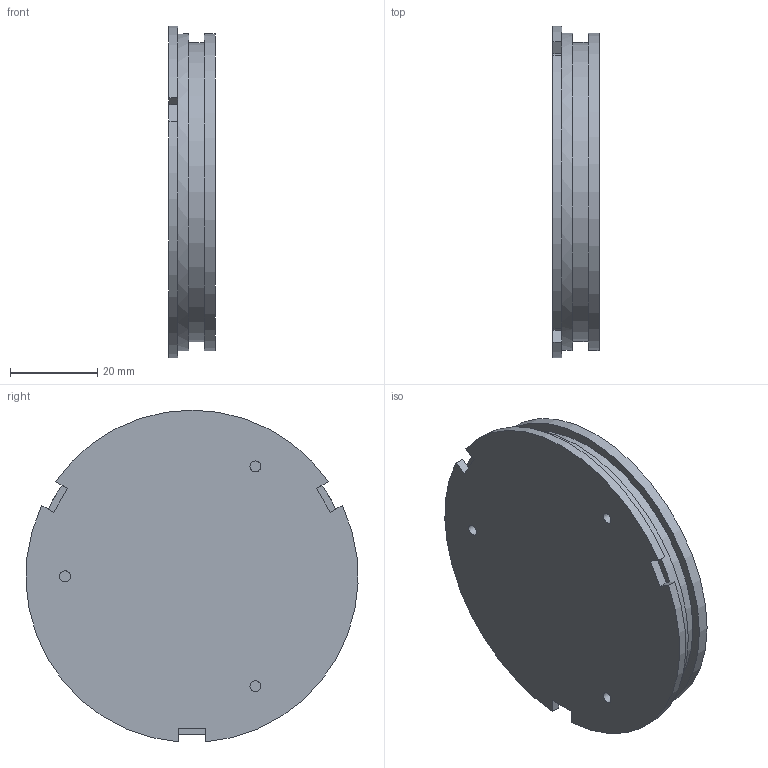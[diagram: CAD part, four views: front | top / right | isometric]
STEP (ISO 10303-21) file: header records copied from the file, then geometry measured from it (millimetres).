
FILE_DESCRIPTION(('Open CASCADE Model'),'2;1');
FILE_NAME('Open CASCADE Shape Model','2026-10-31T23:30:59',('Author'),( 'Open CASCADE'),'Open CASCADE STEP processor 7.9','Open CASCADE 7.9' ,'Unknown');
FILE_SCHEMA(('AUTOMOTIVE_DESIGN { 1 0 10303 214 1 1 1 1 }'));
Length unit declared in the file: millimetre
Products named in the file (1): Open CASCADE STEP translator 7.9 3
Bounding box: 10.6 x 76.13 x 76.07 mm (x, y, z)
Volume: 39323.2 mm3; surface area: 13724.7 mm2
Topology: 1 solids, 1 shells, 45 faces, 93 edges, 62 vertices
Faces by surface type: plane 29, cylinder 16
Full cylindrical faces by diameter (mm): 2.5 x3, 8.3 x4, 16 x1, 21 x1, 24 x1, 68.59 x1, 72.75 x2
Entity records: 2400 total; most frequent: CARTESIAN_POINT 501, DIRECTION 345, ORIENTED_EDGE 186, PCURVE 186, DEFINITIONAL_REPRESENTATION 186, LINE 149, VECTOR 149, EDGE_CURVE 93
